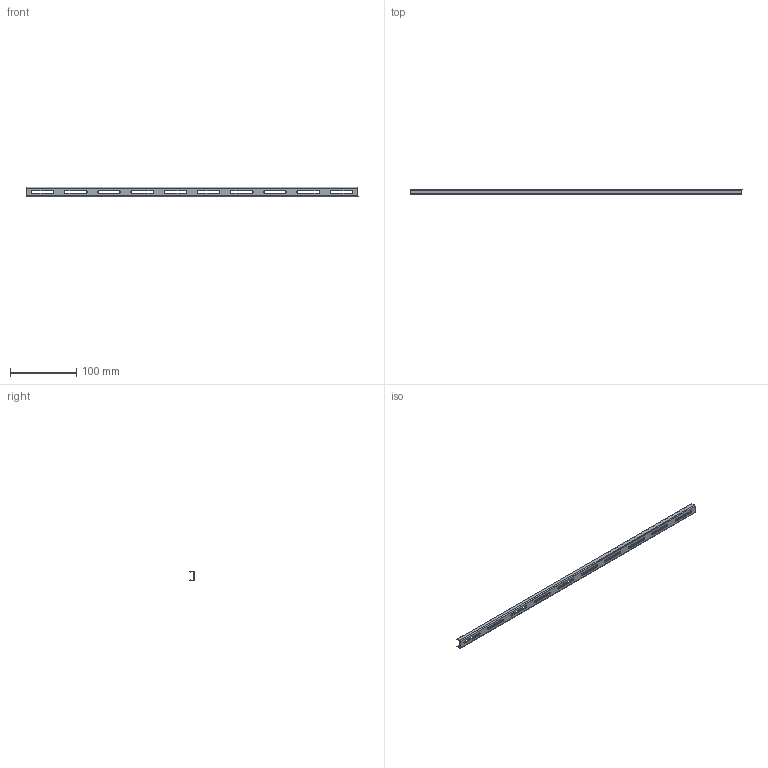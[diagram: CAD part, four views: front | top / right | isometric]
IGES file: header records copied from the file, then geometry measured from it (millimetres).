
Start section: SolidWorks IGES file using analytic representation for surfaces
Global section: file name: C:\Users\Jimmy.Tan\Desktop\MS Plus G15  Mounting profile.IGS; native system: SolidWorks 2012; preprocessor: SolidWorks 2012; author: Jimmy.Tan; date: 151130.133551; units: millimetre
Bounding box: 500 x 7 x 14.5 mm (x, y, z)
Surface area: 24580.8 mm2 (no closed solid volume)
Topology: 0 solids, 0 shells, 65 faces, 1044 edges, 1044 vertices
Faces by surface type: bspline 34, revolution 31
